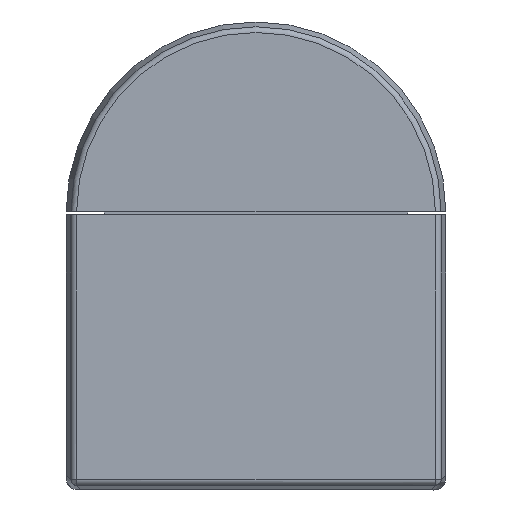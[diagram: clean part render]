
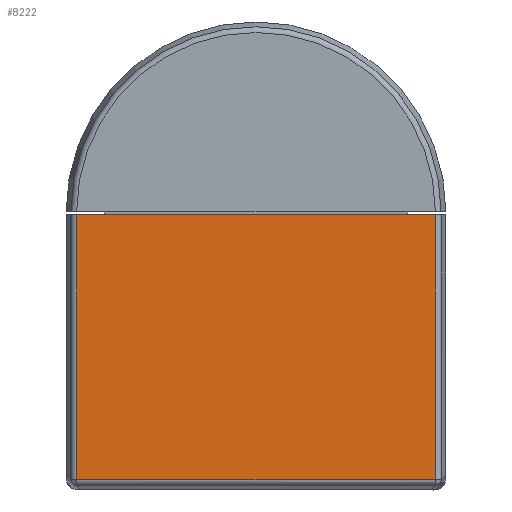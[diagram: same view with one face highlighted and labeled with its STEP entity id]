
A CAD part, front view. The second image highlights one B-rep face of the part: STEP entity #8222.
In plain terms, the highlighted planar face has unit normal (0, -1, 0).
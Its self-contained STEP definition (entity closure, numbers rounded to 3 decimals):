
#875=LINE('',#13308,#1804);
#876=LINE('',#13311,#1805);
#885=LINE('',#13486,#1814);
#900=LINE('',#13526,#1829);
#1804=VECTOR('',#10593,10.);
#1805=VECTOR('',#10596,10.);
#1814=VECTOR('',#10619,10.);
#1829=VECTOR('',#10654,10.);
#2296=PLANE('',#8833);
#2726=FACE_OUTER_BOUND('',#3187,.T.);
#3187=EDGE_LOOP('',(#7279,#7280,#7281,#7282));
#4059=VERTEX_POINT('',#13281);
#4062=VERTEX_POINT('',#13302);
#4063=VERTEX_POINT('',#13310);
#4074=VERTEX_POINT('',#13484);
#5145=EDGE_CURVE('',#4059,#4062,#875,.T.);
#5146=EDGE_CURVE('',#4063,#4059,#876,.T.);
#5164=EDGE_CURVE('',#4062,#4074,#885,.T.);
#5184=EDGE_CURVE('',#4074,#4063,#900,.T.);
#7279=ORIENTED_EDGE('',*,*,#5146,.T.);
#7280=ORIENTED_EDGE('',*,*,#5145,.T.);
#7281=ORIENTED_EDGE('',*,*,#5164,.T.);
#7282=ORIENTED_EDGE('',*,*,#5184,.T.);
#8222=ADVANCED_FACE('',(#2726),#2296,.F.);
#8833=AXIS2_PLACEMENT_3D('',#13525,#10652,#10653);
#10593=DIRECTION('',(1.,0.,0.));
#10596=DIRECTION('',(0.,0.,-1.));
#10619=DIRECTION('',(0.,0.,1.));
#10652=DIRECTION('center_axis',(0.,1.,0.));
#10653=DIRECTION('ref_axis',(1.,0.,0.));
#10654=DIRECTION('',(-1.,0.,0.));
#13281=CARTESIAN_POINT('',(-30.469,66.,-45.469));
#13302=CARTESIAN_POINT('',(30.469,66.,-45.469));
#13308=CARTESIAN_POINT('',(-8.062,66.,-45.469));
#13310=CARTESIAN_POINT('',(-30.469,66.,-0.5));
#13311=CARTESIAN_POINT('',(-30.469,66.,-5.75));
#13484=CARTESIAN_POINT('',(30.469,66.,-0.5));
#13486=CARTESIAN_POINT('',(30.469,66.,-17.438));
#13525=CARTESIAN_POINT('Origin',(0.,66.,-7.5));
#13526=CARTESIAN_POINT('',(16.125,66.,-0.5));
